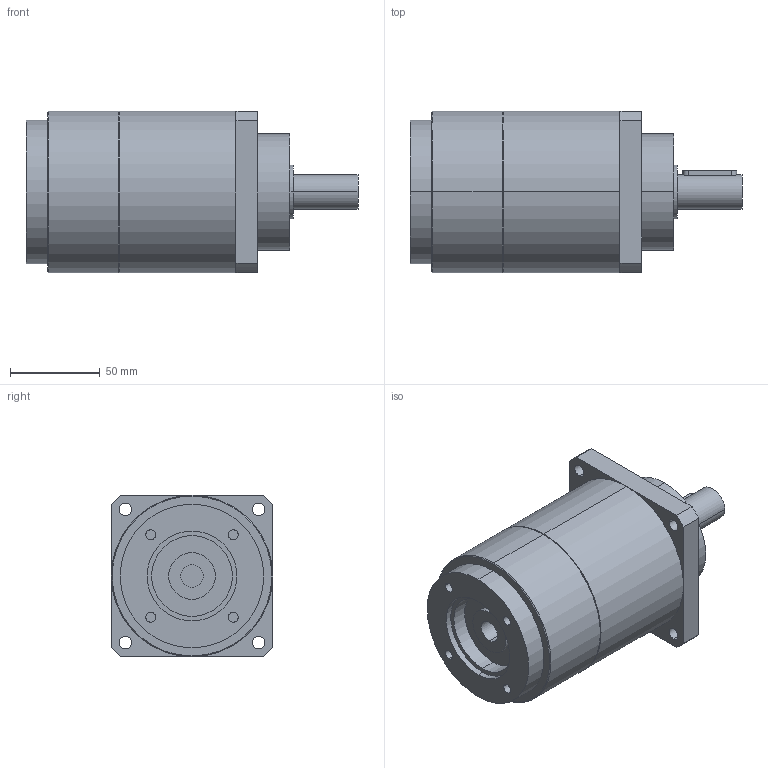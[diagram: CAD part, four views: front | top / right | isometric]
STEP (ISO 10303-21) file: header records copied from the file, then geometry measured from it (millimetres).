
FILE_DESCRIPTION(('CoCreate Modeling STEP Export'),'2;1');
FILE_NAME('GPT90_ig-9-12-16-20-25-28-35-40-50-70-100_19_B5T_12.7_P10.stp','2015-02-04T11:27:28',(''),(''),'CoCreate Modeling STEP processor for AP214 (Solid Model)','CoCreate Modeling 16.00C 25-Feb-2009 (C) Parametric Technology GmbH','');
FILE_SCHEMA(('AUTOMOTIVE_DESIGN { 1 0 10303 214 1 1 1 1 }'));
Length unit declared in the file: millimetre
Products named in the file (2): GPT90_ig-9-12-16-20-25-28-35-40-50-70-100_19_B5T_12.7_P10
Assembly tree (1 placements, depth 2):
  GPT90_ig-9-12-16-20-25-28-35-40-50-70-100_19_B5T_12.7_P10
    GPT90_ig-9-12-16-20-25-28-35-40-50-70-100_19_B5T_12.7_P10
Bounding box: 185 x 90 x 90 mm (x, y, z)
Volume: 869915.5 mm3; surface area: 64558.2 mm2
Topology: 1 solids, 1 shells, 75 faces, 190 edges, 131 vertices
Faces by surface type: cylinder 44, plane 27, cone 4
Entity records: 2388 total; most frequent: CARTESIAN_POINT 704, ORIENTED_EDGE 380, DIRECTION 282, EDGE_CURVE 190, VERTEX_POINT 131, AXIS2_PLACEMENT_3D 106, EDGE_LOOP 97, FACE_OUTER_BOUND 75
